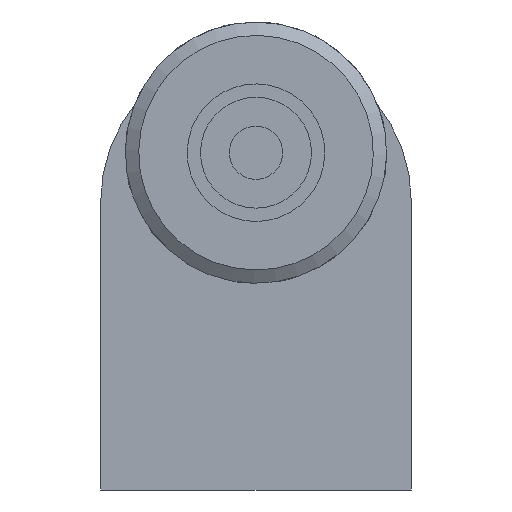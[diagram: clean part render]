
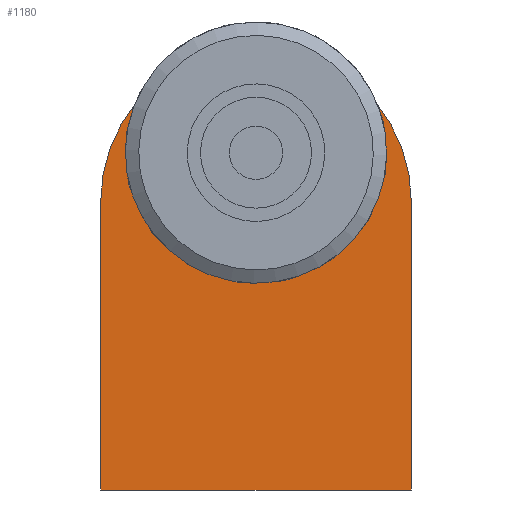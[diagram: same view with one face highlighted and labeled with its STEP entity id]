
A CAD part, left-side view. The second image highlights one B-rep face of the part: STEP entity #1180.
In plain terms, the highlighted planar face has unit normal (-1, 0, 0) as drawn and (0, 0, 1) by its records, which use the part's own axes.
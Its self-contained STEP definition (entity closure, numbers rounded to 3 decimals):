
#132=LINE('',#1840,#142);
#136=LINE('',#1848,#146);
#140=LINE('',#1859,#150);
#142=VECTOR('',#1478,70.);
#146=VECTOR('',#1484,65.);
#150=VECTOR('',#1496,65.);
#191=PLANE('',#1281);
#216=FACE_BOUND('',#371,.T.);
#289=FACE_OUTER_BOUND('',#370,.T.);
#370=EDGE_LOOP('',(#876,#877,#878,#879));
#371=EDGE_LOOP('',(#880));
#498=CIRCLE('',#1273,8.65);
#500=CIRCLE('',#1278,35.);
#582=VERTEX_POINT('',#1833);
#584=VERTEX_POINT('',#1838);
#585=VERTEX_POINT('',#1839);
#588=VERTEX_POINT('',#1847);
#590=VERTEX_POINT('',#1853);
#700=EDGE_CURVE('',#582,#582,#498,.T.);
#702=EDGE_CURVE('',#584,#585,#132,.T.);
#706=EDGE_CURVE('',#585,#588,#136,.T.);
#709=EDGE_CURVE('',#588,#590,#500,.T.);
#712=EDGE_CURVE('',#590,#584,#140,.T.);
#876=ORIENTED_EDGE('',*,*,#702,.F.);
#877=ORIENTED_EDGE('',*,*,#712,.F.);
#878=ORIENTED_EDGE('',*,*,#709,.F.);
#879=ORIENTED_EDGE('',*,*,#706,.F.);
#880=ORIENTED_EDGE('',*,*,#700,.T.);
#1180=ADVANCED_FACE('',(#289,#216),#191,.T.);
#1273=AXIS2_PLACEMENT_3D('',#1834,#1472,#1473);
#1278=AXIS2_PLACEMENT_3D('',#1854,#1489,#1490);
#1281=AXIS2_PLACEMENT_3D('',#1861,#1498,#1499);
#1472=DIRECTION('center_axis',(0.,0.,-1.));
#1473=DIRECTION('ref_axis',(-1.,0.,0.));
#1478=DIRECTION('',(0.,-1.,0.));
#1484=DIRECTION('',(-1.,0.,0.));
#1489=DIRECTION('center_axis',(0.,0.,-1.));
#1490=DIRECTION('ref_axis',(0.,-1.,0.));
#1496=DIRECTION('',(1.,0.,0.));
#1498=DIRECTION('center_axis',(0.,0.,1.));
#1499=DIRECTION('ref_axis',(1.,0.,0.));
#1833=CARTESIAN_POINT('',(8.65,0.,12.));
#1834=CARTESIAN_POINT('Origin',(0.,0.,12.));
#1838=CARTESIAN_POINT('',(76.,35.,12.));
#1839=CARTESIAN_POINT('',(76.,-35.,12.));
#1840=CARTESIAN_POINT('',(76.,35.,12.));
#1847=CARTESIAN_POINT('',(11.,-35.,12.));
#1848=CARTESIAN_POINT('',(76.,-35.,12.));
#1853=CARTESIAN_POINT('',(11.,35.,12.));
#1854=CARTESIAN_POINT('Origin',(11.,0.,12.));
#1859=CARTESIAN_POINT('',(11.,35.,12.));
#1861=CARTESIAN_POINT('Origin',(32.184,0.,
12.));
